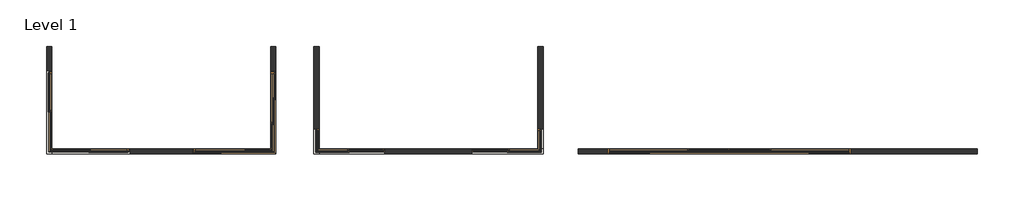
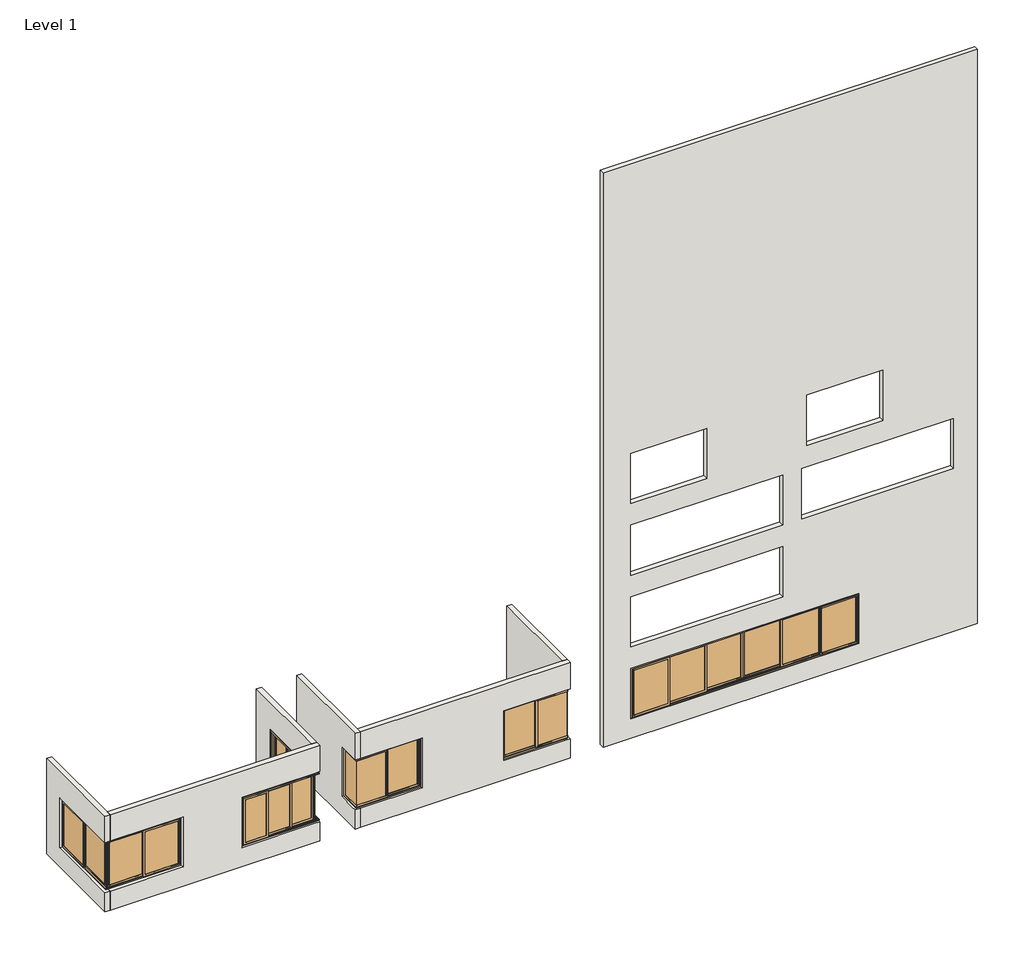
# One storey: 9 doors, 7 walls.
"""IFC4 building model written with IfcOpenShell, lengths in millimetres."""

from ifc_helpers import new_model, si_unit, frame, origin, place, context, project, spatial, polyline, outline, extrude, faceted_brep, transform, mapped, element, save
from components import standard_5dccf147, standard_207e7545, standard_5c9ee6a3, standard_89412fed, standard_595d0532, standard_1a9b79a5, standard_54fc9771, standard_fb16d16e, standard_b7fdf201

model = new_model("IFC4")

# Units and contexts
model_context = context("Model", 3, world=origin())
ifc_project = project(units=[si_unit("LENGTHUNIT", "METRE", prefix="MILLI")], contexts=[model_context])

# Site, building, storey
site = spatial("IfcSite", under=ifc_project)
building = spatial("IfcBuilding", under=site)
storey = spatial("IfcBuildingStorey", under=building, Name="Level 1", Elevation=0.0)

# Doors
placement = place(None, origin())
standard_shape = standard_5dccf147(model_context)
element("IfcDoor", 1, ObjectType="SMARTS_Visoglide Plus : Standard", at=placement, inside=storey, context=model_context, shape_type="MappedRepresentation", body=[
    mapped(standard_shape, transform((-250379.9951777, 24312.6264647, 0.0), x_axis=(-1.0, 0.0, 0.0), y_axis=(0.0, -1.0, 0.0), z_axis=(0.0, 0.0, 1.0))),
])
standard_2_shape = standard_207e7545(model_context)
element("IfcDoor", 2, ObjectType="SMARTS_Visoglide Plus Corner Opening : Standard", at=placement, inside=storey, context=model_context, shape_type="MappedRepresentation", body=[
    mapped(standard_2_shape, transform((-268775.1409284, 24312.6264647, 0.0), x_axis=(1.0, 0.0, 0.0), y_axis=(0.0, 1.0, 0.0), z_axis=(0.0, 0.0, 1.0))),
])
standard_3_shape = standard_5c9ee6a3(model_context)
element("IfcDoor", 3, ObjectType="SMARTS_Visoglide Plus Corner Opening : Standard", at=placement, inside=storey, context=model_context, shape_type="MappedRepresentation", body=[
    mapped(standard_3_shape, transform((-267279.9951777, 25807.6264647, 0.0), x_axis=(0.0, -1.0, 0.0), y_axis=(1.0, 0.0, 0.0), z_axis=(0.0, 0.0, 1.0))),
])
standard_4_shape = standard_89412fed(model_context)
element("IfcDoor", 4, ObjectType="SMARTS_Visoglide Plus Corner Opening : Standard", at=placement, inside=storey, context=model_context, shape_type="MappedRepresentation", body=[
    mapped(standard_4_shape, transform((-275579.9951777, 25807.6264647, 0.0), x_axis=(0.0, -1.0, 0.0), y_axis=(1.0, 0.0, 0.0), z_axis=(0.0, 0.0, 1.0))),
])
standard_5_shape = standard_595d0532(model_context)
element("IfcDoor", 5, ObjectType="SMARTS_Visoglide Plus Corner : Standard", at=placement, inside=storey, context=model_context, shape_type="MappedRepresentation", body=[
    mapped(standard_5_shape, transform((-264486.9951777, 24312.6264647, 0.0), x_axis=(1.0, 0.0, 0.0), y_axis=(0.0, 1.0, 0.0), z_axis=(0.0, 0.0, 1.0))),
])
standard_6_shape = standard_1a9b79a5(model_context)
element("IfcDoor", 6, ObjectType="SMARTS_Visoglide Plus Corner : Standard", at=placement, inside=storey, context=model_context, shape_type="MappedRepresentation", body=[
    mapped(standard_6_shape, transform((-258572.9951777, 24312.6264647, 0.0), x_axis=(-1.0, 0.0, 0.0), y_axis=(0.0, -1.0, 0.0), z_axis=(0.0, 0.0, 1.0))),
])
standard_7_shape = standard_54fc9771(model_context)
element("IfcDoor", 7, ObjectType="SMARTS_Visoglide Plus Corner : Standard", at=placement, inside=storey, context=model_context, shape_type="MappedRepresentation", body=[
    mapped(standard_7_shape, transform((-257379.9951777, 24655.6264647, 0.0), x_axis=(0.0, 1.0, 0.0), y_axis=(-1.0, 0.0, 0.0), z_axis=(0.0, 0.0, 1.0))),
])
standard_8_shape = standard_fb16d16e(model_context)
element("IfcDoor", 8, ObjectType="SMARTS_Visoglide Plus Corner : Standard", at=placement, inside=storey, context=model_context, shape_type="MappedRepresentation", body=[
    mapped(standard_8_shape, transform((-265679.9951777, 24655.6264647, 0.0), x_axis=(0.0, 1.0, 0.0), y_axis=(-1.0, 0.0, 0.0), z_axis=(0.0, 0.0, 1.0))),
])
standard_9_shape = standard_b7fdf201(model_context)
element("IfcDoor", 9, ObjectType="SMARTS_Visoglide Plus Corner Opening : Standard", at=placement, inside=storey, context=model_context, shape_type="MappedRepresentation", body=[
    mapped(standard_9_shape, transform((-274084.849427, 24312.6264647, 0.0), x_axis=(-1.0, 0.0, 0.0), y_axis=(0.0, -1.0, 0.0), z_axis=(0.0, 0.0, 1.0))),
])

# Walls
element("IfcWall", 10, ObjectType="Generic - 200mm", at=placement, inside=storey, context=model_context, shape_type="SweptSolid", body=[
    extrude(outline(polyline([(0.0, -255979.9951777), (0.0, -241179.9951777), (24000.0, -241179.9951777), (24000.0, -255979.9951777), (0.0, -255979.9951777)]), holes=[polyline([(2900.0, -245879.9951777), (800.0, -245879.9951777), (800.0, -254879.9951777), (2900.0, -254879.9951777), (2900.0, -245879.9951777)]), polyline([(5900.0, -254879.9951777), (5900.0, -248879.9951777), (3800.0, -248879.9951777), (3800.0, -254879.9951777), (5900.0, -254879.9951777)]), polyline([(8900.0, -248879.9951777), (6800.0, -248879.9951777), (6800.0, -254879.9951777), (8900.0, -254879.9951777), (8900.0, -248879.9951777)]), polyline([(11900.0, -247929.2339641), (11900.0, -244929.2339641), (9800.0, -244929.2339641), (9800.0, -247929.2339641), (11900.0, -247929.2339641)]), polyline([(8900.0, -248129.0107863), (8900.0, -242129.0107863), (6800.0, -242129.0107863), (6800.0, -248129.0107863), (8900.0, -248129.0107863)]), polyline([(11900.0, -254879.9951777), (11900.0, -251879.9951777), (9800.0, -251879.9951777), (9800.0, -254879.9951777), (11900.0, -254879.9951777)])]), frame((0.0, 24212.6264647, 0.0), z_axis=(0.0, 1.0, 0.0), x_axis=(0.0, 0.0, 1.0)), (0.0, 0.0, 1.0), 200.0),
])
element("IfcWall", 11, ObjectType="Generic - 200mm", at=placement, inside=storey, context=model_context, shape_type="Brep", body=[
    faceted_brep([(-265579.9951777, 24212.6264647, 0.0), (-265579.9951777, 24412.6264647, 0.0), (-265579.9951777, 28212.6264647, 0.0), (-265579.9951777, 28212.6264647, 4000.0), (-265579.9951777, 24412.6264647, 4000.0), (-265579.9951777, 24212.6264647, 4000.0), (-265579.9951777, 24212.6264647, 2900.0), (-265579.9951777, 24412.6264647, 2900.0), (-265579.9951777, 25155.6264647, 2900.0), (-265579.9951777, 25155.6264647, 800.0), (-265579.9951777, 24412.6264647, 800.0), (-265579.9951777, 24212.6264647, 800.0), (-265779.9951777, 28212.6264647, 0.0), (-265779.9951777, 24212.6264647, 0.0), (-265779.9951777, 24212.6264647, 800.0), (-265779.9951777, 24412.6264647, 800.0), (-265779.9951777, 25155.6264647, 800.0), (-265779.9951777, 25155.6264647, 2900.0), (-265779.9951777, 24412.6264647, 2900.0), (-265779.9951777, 24212.6264647, 2900.0), (-265779.9951777, 24212.6264647, 4000.0), (-265779.9951777, 28212.6264647, 4000.0)], [[[0, 1, 2, 3, 4, 5, 6, 7, 8, 9, 10, 11]], [[12, 13, 14, 15, 16, 17, 18, 19, 20, 21]], [[2, 1, 0, 13, 12]], [[3, 2, 12, 21]], [[5, 4, 3, 21, 20]], [[5, 20, 19, 6]], [[13, 0, 11, 14]], [[17, 8, 7, 6, 19, 18]], [[8, 17, 16, 9]], [[9, 16, 15, 14, 11, 10]]]),
])
element("IfcWall", 12, ObjectType="Generic - 200mm", at=placement, inside=storey, context=model_context, shape_type="Brep", body=[
    faceted_brep([(-265579.9951777, 24212.6264647, 0.0), (-257279.9951777, 24212.6264647, 0.0), (-257279.9951777, 24212.6264647, 800.0), (-257479.9951777, 24212.6264647, 800.0), (-259922.9951777, 24212.6264647, 800.0), (-259922.9951777, 24212.6264647, 2900.0), (-257479.9951777, 24212.6264647, 2900.0), (-257279.9951777, 24212.6264647, 2900.0), (-257279.9951777, 24212.6264647, 4000.0), (-265579.9951777, 24212.6264647, 4000.0), (-265579.9951777, 24212.6264647, 2900.0), (-263136.9951777, 24212.6264647, 2900.0), (-263136.9951777, 24212.6264647, 800.0), (-265579.9951777, 24212.6264647, 800.0), (-257279.9951777, 24412.6264647, 0.0), (-257479.9951777, 24412.6264647, 0.0), (-265579.9951777, 24412.6264647, 0.0), (-265579.9951777, 24412.6264647, 800.0), (-263136.9951777, 24412.6264647, 800.0), (-263136.9951777, 24412.6264647, 2900.0), (-265579.9951777, 24412.6264647, 2900.0), (-265579.9951777, 24412.6264647, 4000.0), (-257479.9951777, 24412.6264647, 4000.0), (-257279.9951777, 24412.6264647, 4000.0), (-257279.9951777, 24412.6264647, 2900.0), (-257479.9951777, 24412.6264647, 2900.0), (-259922.9951777, 24412.6264647, 2900.0), (-259922.9951777, 24412.6264647, 800.0), (-257479.9951777, 24412.6264647, 800.0), (-257279.9951777, 24412.6264647, 800.0)], [[[0, 1, 2, 3, 4, 5, 6, 7, 8, 9, 10, 11, 12, 13]], [[14, 15, 16, 17, 18, 19, 20, 21, 22, 23, 24, 25, 26, 27, 28, 29]], [[1, 0, 16, 15, 14]], [[9, 8, 23, 22, 21]], [[9, 21, 20, 10]], [[16, 0, 13, 17]], [[19, 11, 10, 20]], [[11, 19, 18, 12]], [[12, 18, 17, 13]], [[1, 14, 29, 2]], [[23, 8, 7, 24]], [[5, 26, 25, 24, 7, 6]], [[26, 5, 4, 27]], [[27, 4, 3, 2, 29, 28]]]),
])
element("IfcWall", 13, ObjectType="Generic - 200mm", at=placement, inside=storey, context=model_context, shape_type="SweptSolid", body=[
    extrude(outline(polyline([(28212.6264647, 0.0), (24412.6264647, 0.0), (24412.6264647, 800.0), (25155.6264647, 800.0), (25155.6264647, 2900.0), (24412.6264647, 2900.0), (24412.6264647, 4000.0), (28212.6264647, 4000.0), (28212.6264647, 0.0)])), frame((-257479.9951777, 0.0, 0.0), z_axis=(1.0, 0.0, 0.0), x_axis=(0.0, 1.0, 0.0)), (0.0, 0.0, 1.0), 200.0),
])
element("IfcWall", 14, ObjectType="Generic - 200mm", at=placement, inside=storey, context=model_context, shape_type="Brep", body=[
    faceted_brep([(-275479.9951777, 24212.6264647, 0.0), (-275479.9951777, 24412.6264647, 0.0), (-275479.9951777, 28212.6264647, 0.0), (-275479.9951777, 28212.6264647, 4000.0), (-275479.9951777, 24412.6264647, 4000.0), (-275479.9951777, 24212.6264647, 4000.0), (-275479.9951777, 24212.6264647, 2900.0), (-275479.9951777, 24412.6264647, 2900.0), (-275479.9951777, 27307.6264647, 2900.0), (-275479.9951777, 27307.6264647, 800.0), (-275479.9951777, 24412.6264647, 800.0), (-275479.9951777, 24212.6264647, 800.0), (-275679.9951777, 28212.6264647, 0.0), (-275679.9951777, 24212.6264647, 0.0), (-275679.9951777, 24212.6264647, 800.0), (-275679.9951777, 27307.6264647, 800.0), (-275679.9951777, 27307.6264647, 2900.0), (-275679.9951777, 24212.6264647, 2900.0), (-275679.9951777, 24212.6264647, 4000.0), (-275679.9951777, 28212.6264647, 4000.0)], [[[0, 1, 2, 3, 4, 5, 6, 7, 8, 9, 10, 11]], [[12, 13, 14, 15, 16, 17, 18, 19]], [[2, 1, 0, 13, 12]], [[3, 2, 12, 19]], [[5, 4, 3, 19, 18]], [[5, 18, 17, 6]], [[13, 0, 11, 14]], [[6, 17, 16, 8, 7]], [[9, 15, 14, 11, 10]], [[15, 9, 8, 16]]]),
])
element("IfcWall", 15, ObjectType="Generic - 200mm", at=placement, inside=storey, context=model_context, shape_type="Brep", body=[
    faceted_brep([(-275479.9951777, 24212.6264647, 0.0), (-267179.9951777, 24212.6264647, 0.0), (-267179.9951777, 24212.6264647, 800.0), (-267379.9951777, 24212.6264647, 800.0), (-270275.1409284, 24212.6264647, 800.0), (-270275.1409284, 24212.6264647, 2900.0), (-267379.9951777, 24212.6264647, 2900.0), (-267179.9951777, 24212.6264647, 2900.0), (-267179.9951777, 24212.6264647, 4000.0), (-275479.9951777, 24212.6264647, 4000.0), (-275479.9951777, 24212.6264647, 2900.0), (-272584.849427, 24212.6264647, 2900.0), (-272584.849427, 24212.6264647, 800.0), (-275479.9951777, 24212.6264647, 800.0), (-267179.9951777, 24412.6264647, 0.0), (-267379.9951777, 24412.6264647, 0.0), (-275479.9951777, 24412.6264647, 0.0), (-275479.9951777, 24412.6264647, 800.0), (-272584.849427, 24412.6264647, 800.0), (-272584.849427, 24412.6264647, 2900.0), (-275479.9951777, 24412.6264647, 2900.0), (-275479.9951777, 24412.6264647, 4000.0), (-267379.9951777, 24412.6264647, 4000.0), (-267179.9951777, 24412.6264647, 4000.0), (-267179.9951777, 24412.6264647, 2900.0), (-267379.9951777, 24412.6264647, 2900.0), (-270275.1409284, 24412.6264647, 2900.0), (-270275.1409284, 24412.6264647, 800.0), (-267379.9951777, 24412.6264647, 800.0), (-267179.9951777, 24412.6264647, 800.0)], [[[0, 1, 2, 3, 4, 5, 6, 7, 8, 9, 10, 11, 12, 13]], [[14, 15, 16, 17, 18, 19, 20, 21, 22, 23, 24, 25, 26, 27, 28, 29]], [[1, 0, 16, 15, 14]], [[9, 8, 23, 22, 21]], [[9, 21, 20, 10]], [[16, 0, 13, 17]], [[1, 14, 29, 2]], [[23, 8, 7, 24]], [[18, 12, 11, 19]], [[19, 11, 10, 20]], [[12, 18, 17, 13]], [[4, 27, 26, 5]], [[5, 26, 25, 24, 7, 6]], [[27, 4, 3, 2, 29, 28]]]),
])
element("IfcWall", 16, ObjectType="Generic - 200mm", at=placement, inside=storey, context=model_context, shape_type="SweptSolid", body=[
    extrude(outline(polyline([(28212.6264647, 0.0), (24412.6264647, 0.0), (24412.6264647, 800.0), (27307.6264647, 800.0), (27307.6264647, 2900.0), (24412.6264647, 2900.0), (24412.6264647, 4000.0), (28212.6264647, 4000.0), (28212.6264647, 0.0)])), frame((-267379.9951777, 0.0, 0.0), z_axis=(1.0, 0.0, 0.0), x_axis=(0.0, 1.0, 0.0)), (0.0, 0.0, 1.0), 200.0),
])

save(model, "model.ifc")
